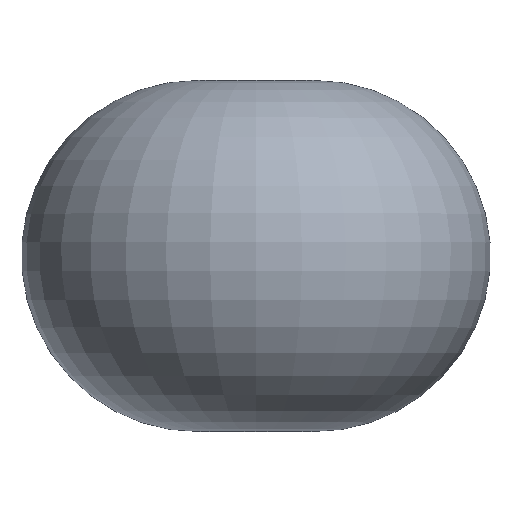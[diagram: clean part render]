
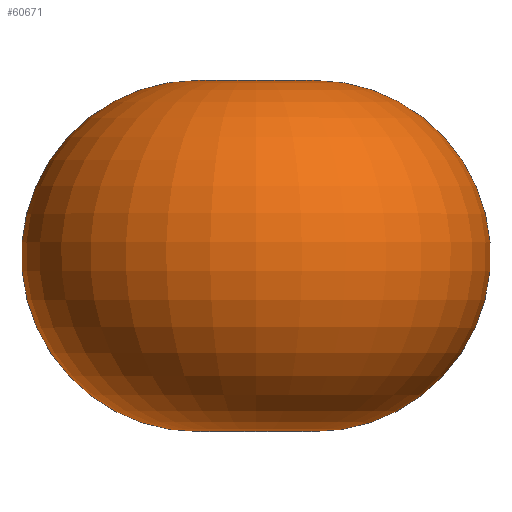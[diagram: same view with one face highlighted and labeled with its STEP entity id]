
A CAD part, top view. The second image highlights one B-rep face of the part: STEP entity #60671.
In plain terms, the highlighted toroidal (fillet/blend) face has major radius 850 mm and minor radius 2527.38 mm.
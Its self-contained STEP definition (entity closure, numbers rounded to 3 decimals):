
#60325 = VERTEX_POINT ( 'NONE', #65027 ) ;
#60332 = VERTEX_POINT ( 'NONE', #65020 ) ;
#60336 = EDGE_CURVE ( 'NONE', #60325, #60332, #65019, .T. ) ;
#60339 = EDGE_LOOP ( 'NONE', ( #60672, #60673, #60677, #60683 ) ) ;
#60671 = ADVANCED_FACE ( 'NONE', ( #65294 ), #65293, .T. ) ;
#60672 = ORIENTED_EDGE ( 'NONE', *, *, #60336, .T. ) ;
#60673 = ORIENTED_EDGE ( 'NONE', *, *, #60674, .T. ) ;
#60674 = EDGE_CURVE ( 'NONE', #60332, #60676, #65279, .T. ) ;
#60676 = VERTEX_POINT ( 'NONE', #65271 ) ;
#60677 = ORIENTED_EDGE ( 'NONE', *, *, #60680, .F. ) ;
#60680 = EDGE_CURVE ( 'NONE', #60682, #60676, #65267, .T. ) ;
#60682 = VERTEX_POINT ( 'NONE', #65259 ) ;
#60683 = ORIENTED_EDGE ( 'NONE', *, *, #60684, .F. ) ;
#60684 = EDGE_CURVE ( 'NONE', #60325, #60682, #65254, .T. ) ;
#65019 = CIRCLE ( 'NONE', #65110, 821.418 ) ;
#65020 = CARTESIAN_POINT ( 'NONE',  ( 821.418, -2027.214, 0. ) ) ;
#65027 = CARTESIAN_POINT ( 'NONE',  ( -821.418, -2027.214, 0. ) ) ;
#65107 = DIRECTION ( 'NONE',  ( -1., 0., 0. ) ) ;
#65108 = DIRECTION ( 'NONE',  ( 0., 1., 0. ) ) ;
#65109 = CARTESIAN_POINT ( 'NONE',  ( 0., -2027.214, 0. ) ) ;
#65110 = AXIS2_PLACEMENT_3D ( 'NONE', #65109, #65108, #65107 ) ;
#65248 = DIRECTION ( 'NONE',  ( -1., 0., 0. ) ) ;
#65249 = DIRECTION ( 'NONE',  ( 0., 0., -1. ) ) ;
#65250 = CARTESIAN_POINT ( 'NONE',  ( -850., 500., 0. ) ) ;
#65252 = AXIS2_PLACEMENT_3D ( 'NONE', #65250, #65249, #65248 ) ;
#65254 = CIRCLE ( 'NONE', #65252, 2527.376 ) ;
#65259 = CARTESIAN_POINT ( 'NONE',  ( -850., 3027.376, 0. ) ) ;
#65260 = DIRECTION ( 'NONE',  ( -1., 0., 0. ) ) ;
#65262 = DIRECTION ( 'NONE',  ( 0., 1., 0. ) ) ;
#65264 = CARTESIAN_POINT ( 'NONE',  ( 0., 3027.376, 0. ) ) ;
#65265 = AXIS2_PLACEMENT_3D ( 'NONE', #65264, #65262, #65260 ) ;
#65267 = CIRCLE ( 'NONE', #65265, 850. ) ;
#65271 = CARTESIAN_POINT ( 'NONE',  ( 850., 3027.376, 0. ) ) ;
#65274 = DIRECTION ( 'NONE',  ( 1., 0., 0. ) ) ;
#65276 = DIRECTION ( 'NONE',  ( 0., 0., 1. ) ) ;
#65277 = CARTESIAN_POINT ( 'NONE',  ( 850., 500., 0. ) ) ;
#65278 = AXIS2_PLACEMENT_3D ( 'NONE', #65277, #65276, #65274 ) ;
#65279 = CIRCLE ( 'NONE', #65278, 2527.376 ) ;
#65284 = DIRECTION ( 'NONE',  ( -1., 0., 0. ) ) ;
#65285 = DIRECTION ( 'NONE',  ( 0., 1., 0. ) ) ;
#65287 = CARTESIAN_POINT ( 'NONE',  ( 0., 500., 0. ) ) ;
#65288 = AXIS2_PLACEMENT_3D ( 'NONE', #65287, #65285, #65284 ) ;
#65293 = TOROIDAL_SURFACE ( 'NONE', #65288, 850., 2527.376 ) ;
#65294 = FACE_OUTER_BOUND ( 'NONE', #60339, .T. ) ;
